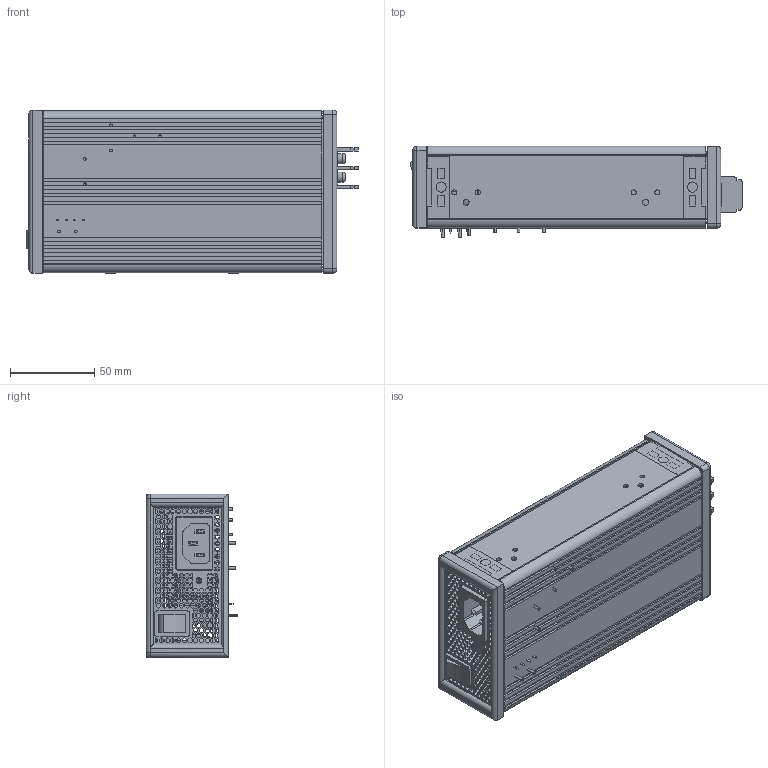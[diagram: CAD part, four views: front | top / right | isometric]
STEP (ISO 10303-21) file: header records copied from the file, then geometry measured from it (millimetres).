
FILE_DESCRIPTION(('Creo Elements/Direct Modeling STEP Export'),'2;1');
FILE_NAME('NPB-120240-TB.stp','2022-07-14T13:07:11',(''),(''),'PTC Creo Elements/Direct Modeling STEP processor for AP214 (Solid Model)','PTC Creo Elements/Direct Modeling 19.0E 27-Jun-2016 (C) Parametric Technology GmbH','');
FILE_SCHEMA(('AUTOMOTIVE_DESIGN { 1 0 10303 214 1 1 1 1 }'));
Length unit declared in the file: millimetre
Products named in the file (189): 11-1983730_PRT.PRT; 11-1984060_ASM.ASM; 11-1974700_PRT.PRT; 11-1975030_ASM.ASM; 11_1-1968480_PRT.PRT; 11_1-1968810_ASM.ASM; 1GG1HS-SZ139-1962260_PRT.PRT; 1GG1HS-SZ139-1962590_ASM.ASM; 1GG1HS-SZ142-1934850_PRT.PRT; 1GG1HS-SZ142-1935180_ASM.ASM; 1GG1HS-SZ142-1-1924980_PRT.PRT; 1GG1HS-SZ142-1-1925310_ASM.ASM; 1GG1HS-SZ143-1919580_PRT.PRT; 1GG1HS-SZ143-1919910_ASM.ASM; 1GG2MHS052A-1907660_PRT.PRT; 1GG2MHS052A-1907990_ASM.ASM; 1GG2MHS052A_1-1902920_PRT.PRT; 1GG2MHS052A_1-1903250_ASM.ASM; 1GG2MHS052A_2-1898180_PRT.PRT; 1GG2MHS052A_2-1898510_ASM.ASM; 1GG4CU-SZ039-OLD-1894080_PRT.PRT; 1GG4CU-SZ039-OLD-1894410_ASM.ASM; 1GG4CU-SZ039_1-1879090_PRT.PRT; 1GG4CU-SZ039_1-1879420_ASM.ASM; 1GG4CU-SZ041-1860600_PRT.PRT; 1GG4CU-SZ041-1860930_ASM.ASM; 1HH2NPB-240A-1851250_PRT.PRT; 1HH2NPB-240A-1851580_ASM.ASM; 1N_PRT_PRT-1848250_PRT.PRT; 1N_PRT_PRT-1848860_ASM.ASM; 1N_PRT_PRT_4_ASM.ASM; 26D77668-81B1-466B-87E3-1830200.PRT; 26D77668-81B1-466B-87E3-1817100.ASM; BBNEPC42CY150513LSD_PRT-1806100.PRT; BBNEPC42CY150513LSD_PRT-1806430.ASM; BBNEPC42CY150513LSD_PRT-1724680.PRT; BBNEPC42CY150513LSD_PRT-1726990.ASM; C1_PRT.PRT; C1_1-1638270_PRT.PRT; C1_1-1638600_ASM.ASM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
Assembly tree (191 placements, depth 4):
  NPB-120240-TB.stp
    NPB-120240-TB_STP.ASM
      _X2_8F9351FA_X0_TB_X2_65-630210.ASM
        _X2_8F9351FA_X0_TB_X2_65-629880.PRT
      _X2_8F9351659762677F_X0-1020130.ASM
        _X2_8F9351659762677F_X0-1019800.PRT
      _X2_87BA4E1D_X0__3-1030880_ASM.ASM
        _X2_87BA4E1D_X0__3-1030550_PRT.PRT
      _X2_87BA4E1D_X0__2_1-1042270_AS.ASM
        _X2_87BA4E1D_X0__2_1-1041940_PR.PRT
      _X2_87BA4E1D_X0__2-1053660_ASM.ASM
        _X2_87BA4E1D_X0__2-1053330_PRT.PRT
      _X2_87BA4E1D_X0__1-1064410_ASM.PRT
      _X2_70ED654F_X0_-1073650_ASM.ASM
        _X2_70ED654F_X0_-1073320_PRT.PRT
      _X2_63A57EBF7AEF5B50_X0-1122340.ASM
        _X2_63A57EBF7AEF5B50_X0-1122010.PRT
      _X2_538B654F_X0_-1131580_ASM.ASM
        _X2_538B654F_X0_-1131250_PRT.PRT
      _X2_516D89D287BA6BCD_X0-1135000.ASM
        _X2_516D89D287BA6BCD_X0-1134670.PRT
      DDD_1_1_ASM.ASM
        DDD_1-1143530_PRT.PRT
      DDD_1-1144140_ASM.ASM
        DDD_1-1143530_PRT.PRT
      Y_1_1_1_1_1_1_1_1-1153380_ASM.ASM
        Y_1_1_1_1_1_1_1_1-1153050_PRT.PRT
      Y_1_1_1_1_1_1_1-1162620_ASM.ASM
        Y_1_1_1_1_1_1_1-1162290_PRT.PRT
      Y_1_1_1_1_1_1-1171860_ASM.ASM
        Y_1_1_1_1_1_1-1171530_PRT.PRT
      Y_1_1_1_1_1-1181100_ASM.ASM
        Y_1_1_1_1_1-1180770_PRT.PRT
      Y_1_1_1_1-1190340_ASM.ASM
        Y_1_1_1_1-1190010_PRT.PRT
      Y_1_1_1-1199580_ASM.ASM
        Y_1_1_1-1199250_PRT.PRT
      Y_1_1-1208820_ASM.ASM
        Y_1_1-1208490_PRT.PRT
      X_X2_75355BB9_X0__1-1212280_ASM.ASM
        X_X2_75355BB9_X0__1-1211950_PRT.PRT
      X_X2_75355BB9_X0_-1215740_ASM.ASM
        X_X2_75355BB9_X0_-1215410_PRT.PRT
      TU-301-SP-STA715_23_PRT-1294860.ASM
        TU-301-SP-STA715_23_PRT-1294530.PRT
      TR5_1-1296200_ASM.ASM
        TR5_1-1295870_PRT.PRT
      TR5-1298180_ASM.ASM
        TR5-1297850_PRT.PRT
      TR4-1300160_ASM.ASM
        TR4-1299830_PRT.PRT
      TR3-1302140_ASM.ASM
        TR3-1301810_PRT.PRT
      TR2-1304120_ASM.ASM
        TR2-1303790_PRT.PRT
      TR1-1306100_ASM.ASM
        TR1-1305770_PRT.PRT
      TO220-1_2_1_1_1_1_1_1_1-1314320.ASM
        TO220-1_2_1_1_1_1_1_1_1-1313990.PRT
      TO220-1_2_1_1_1_1_1_1-1322540_A.ASM
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Bounding box: 196.88 x 54.25 x 97.18 mm (x, y, z)
Volume: 327934.3 mm3; surface area: 332998.5 mm2
Topology: 94 solids, 94 shells, 5945 faces, 16470 edges, 10892 vertices
Faces by surface type: plane 4869, cylinder 920, torus 85, cone 48, sphere 16, bspline 6, extrusion 1
Entity records: 193444 total; most frequent: CARTESIAN_POINT 35503, ORIENTED_EDGE 32374, DIRECTION 28910, EDGE_CURVE 16187, VECTOR 14006, LINE 14005, VERTEX_POINT 10710, AXIS2_PLACEMENT_3D 7452
